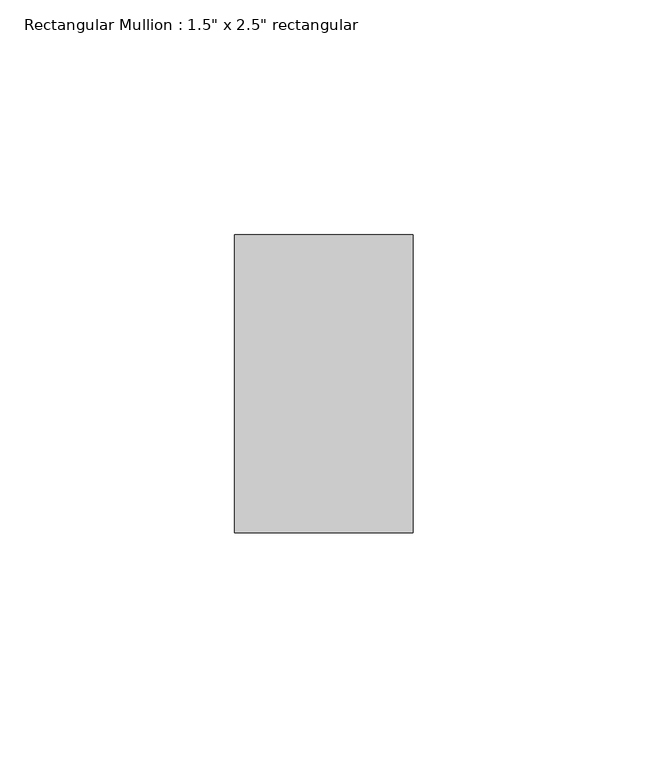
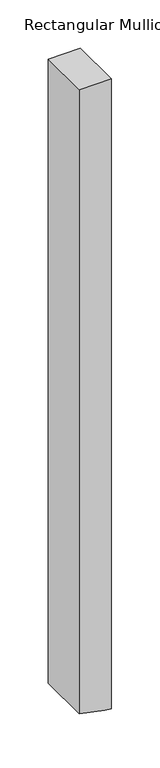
"""IFC4 building model written with IfcOpenShell, lengths in millimetres: member geometry."""

from ifc_helpers import new_model, si_unit, frame, origin, place, context, project, spatial, polyline, outline, extrude, source, transform, mapped, element, save


def member_633fb476(model_context):
    return source(origin(), model_context, "Body", "SweptSolid", [
        extrude(outline(polyline([(0.0, 19.05), (0.0, -19.05), (-786.613583, -19.05), (-792.8233256, 11.72809), (-794.0982968, 19.05), (0.0, 19.05)])), frame((0.0, -31.75, 0.0), z_axis=(0.0, 1.0, 0.0), x_axis=(0.0, 0.0, 1.0)), (0.0, 0.0, 1.0), 63.5),
    ])


if __name__ == "__main__":
    model = new_model("IFC4")
    model_context = context("Model", 3, world=origin())
    ifc_project = project(units=[si_unit("LENGTHUNIT", "METRE", prefix="MILLI")], contexts=[model_context])
    site = spatial("IfcSite", under=ifc_project)
    building = spatial("IfcBuilding", under=site)
    placement = place(None, origin())
    member_shape = member_633fb476(model_context)
    element("IfcMember", 1, ObjectType="Rectangular Mullion : 1.5\" x 2.5\" rectangular", at=placement, inside=building, context=model_context, shape_type="MappedRepresentation", body=[
        mapped(member_shape, transform((0.0, 0.0, 0.0), x_axis=(1.0, 0.0, 0.0), y_axis=(0.0, 1.0, 0.0), z_axis=(0.0, 0.0, 1.0))),
    ])
    save(model, "model.ifc")
